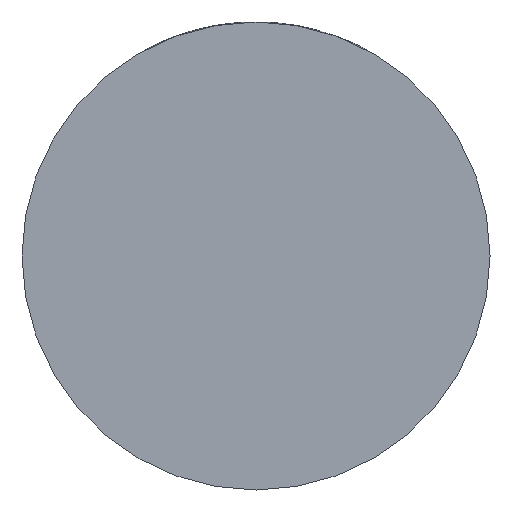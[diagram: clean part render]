
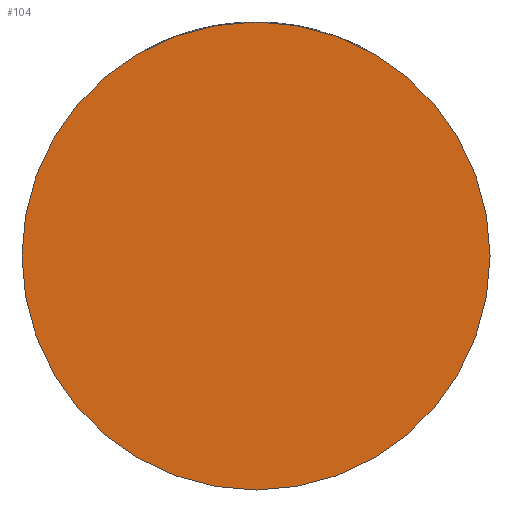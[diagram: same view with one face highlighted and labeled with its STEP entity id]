
A CAD part, front view. The second image highlights one B-rep face of the part: STEP entity #104.
In plain terms, the highlighted planar face has unit normal (0, -1, 0).
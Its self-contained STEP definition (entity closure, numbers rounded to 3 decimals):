
#104 = ADVANCED_FACE ( 'NONE', ( #1975 ), #912, .T. ) ;
#165 = DIRECTION ( 'NONE',  ( 1., 0., 0. ) ) ;
#498 = DIRECTION ( 'NONE',  ( 0., -1., 0. ) ) ;
#580 = VERTEX_POINT ( 'NONE', #1741 ) ;
#847 = EDGE_CURVE ( 'NONE', #1344, #580, #3803, .T. ) ;
#863 = EDGE_CURVE ( 'NONE', #580, #1344, #4466, .T. ) ;
#912 = PLANE ( 'NONE',  #4240 ) ;
#1153 = AXIS2_PLACEMENT_3D ( 'NONE', #4318, #1154, #2612 ) ;
#1154 = DIRECTION ( 'NONE',  ( 0., -1., 0. ) ) ;
#1237 = CARTESIAN_POINT ( 'NONE',  ( 0., -39., 0. ) ) ;
#1344 = VERTEX_POINT ( 'NONE', #3124 ) ;
#1432 = ORIENTED_EDGE ( 'NONE', *, *, #863, .T. ) ;
#1650 = DIRECTION ( 'NONE',  ( 1., 0., 0. ) ) ;
#1741 = CARTESIAN_POINT ( 'NONE',  ( 39., -39., 0. ) ) ;
#1750 = EDGE_LOOP ( 'NONE', ( #2894, #1432 ) ) ;
#1975 = FACE_OUTER_BOUND ( 'NONE', #1750, .T. ) ;
#2219 = CARTESIAN_POINT ( 'NONE',  ( 0., -39., 0. ) ) ;
#2588 = DIRECTION ( 'NONE',  ( 0., -1., 0. ) ) ;
#2612 = DIRECTION ( 'NONE',  ( 1., 0., 0. ) ) ;
#2631 = AXIS2_PLACEMENT_3D ( 'NONE', #2219, #2588, #165 ) ;
#2894 = ORIENTED_EDGE ( 'NONE', *, *, #847, .T. ) ;
#3124 = CARTESIAN_POINT ( 'NONE',  ( -39., -39., 0. ) ) ;
#3803 = CIRCLE ( 'NONE', #1153, 39. ) ;
#4240 = AXIS2_PLACEMENT_3D ( 'NONE', #1237, #498, #1650 ) ;
#4318 = CARTESIAN_POINT ( 'NONE',  ( 0., -39., 0. ) ) ;
#4466 = CIRCLE ( 'NONE', #2631, 39. ) ;
